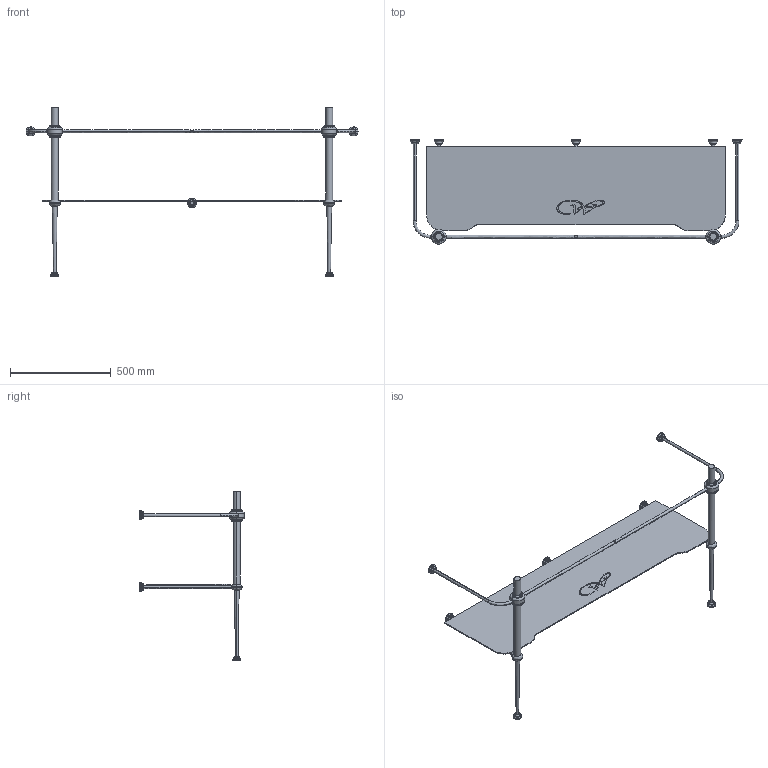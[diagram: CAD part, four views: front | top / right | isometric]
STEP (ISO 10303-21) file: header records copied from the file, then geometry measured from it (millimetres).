
FILE_DESCRIPTION(/* description */ (''),/* implementation_level */ '2;1');
FILE_NAME(/* name */ '9195-struttura-in-metall-metal-floor-standing-unit150cm',/* time_stamp */ '2014-10-16T16:54:54+02:00',/* author */ (''),/* organization */ (''),/* preprocessor_version */ 'ST-DEVELOPER v10',/* originating_system */ '',/* authorisation */ '');
FILE_SCHEMA (('CONFIG_CONTROL_DESIGN'));
Length unit declared in the file: millimetre
Products named in the file (1): 1
Bounding box: 1645.1 x 516.76 x 840 mm (x, y, z)
Volume: 2944915.3 mm3; surface area: 1549637.6 mm2
Topology: 2 solids, 4 shells, 225 faces, 528 edges, 323 vertices
Faces by surface type: bspline 175, plane 50
Entity records: 8788 total; most frequent: CARTESIAN_POINT 5595, ORIENTED_EDGE 1053, EDGE_CURVE 528, VERTEX_POINT 323, B_SPLINE_CURVE_WITH_KNOTS 295, EDGE_LOOP 239, ADVANCED_FACE 225, FACE_OUTER_BOUND 225
